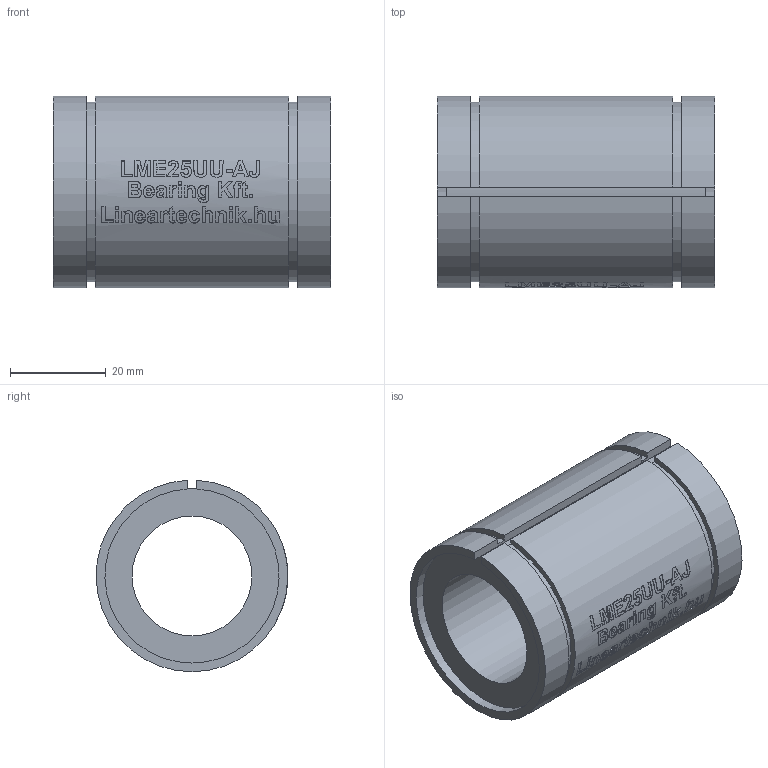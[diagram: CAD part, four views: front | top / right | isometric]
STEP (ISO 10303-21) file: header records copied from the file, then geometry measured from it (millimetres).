
FILE_DESCRIPTION(/* description */ (''),/* implementation_level */ '2;1');
FILE_NAME(/* name */ 'LME25UU-AJ',/* time_stamp */ '2019-07-02T12:05:57+02:00',/* author */ ('VĂ©gh MĂˇtĂ©'),/* organization */ ('Bearing Kft'),/* preprocessor_version */ 'ST-DEVELOPER v16.7',/* originating_system */ 'DEX',/* authorisation */ $);
FILE_SCHEMA (('AUTOMOTIVE_DESIGN {1 0 10303 214 3 1 1}'));
Length unit declared in the file: millimetre
Products named in the file (1): LME25UU-AJ
Bounding box: 58 x 39.99 x 39.98 mm (x, y, z)
Volume: 41447.7 mm3; surface area: 14314.6 mm2
Topology: 1 solids, 1 shells, 347 faces, 886 edges, 590 vertices
Faces by surface type: plane 185, bspline 104, cylinder 58
Full cylindrical faces by diameter (mm): 25 x1
Entity records: 18856 total; most frequent: CARTESIAN_POINT 10966, ORIENTED_EDGE 1766, DIRECTION 1326, EDGE_CURVE 883, VERTEX_POINT 589, LINE 504, VECTOR 504, AXIS2_PLACEMENT_3D 411
